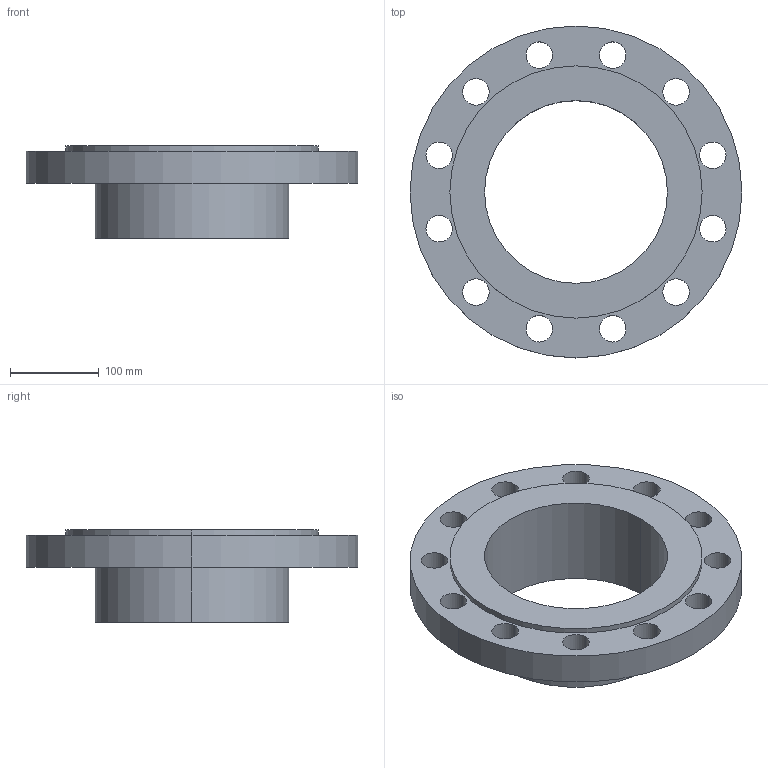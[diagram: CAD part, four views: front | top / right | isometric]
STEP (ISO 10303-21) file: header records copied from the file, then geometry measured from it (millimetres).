
FILE_DESCRIPTION (( 'STEP AP214' ), '1' );
FILE_NAME ('PN40 DN200 Type 02 in 33 - (Type A Face).STEP', '2019-01-05T02:26:45', ( '' ), ( '' ), 'SwSTEP 2.0', 'SolidWorks 2019', '' );
FILE_SCHEMA (( 'AUTOMOTIVE_DESIGN' ));
Length unit declared in the file: millimetre
Products named in the file (1): PN40 DN200 Type 02 in 33 - (Type A Face)
Bounding box: 375 x 375 x 104.3 mm (x, y, z)
Volume: 2829844.1 mm3; surface area: 428929.6 mm2
Topology: 2 solids, 2 shells, 43 faces, 110 edges, 72 vertices
Faces by surface type: cylinder 34, plane 5, cone 4
Entity records: 1443 total; most frequent: DIRECTION 270, CARTESIAN_POINT 226, ORIENTED_EDGE 220, AXIS2_PLACEMENT_3D 116, EDGE_CURVE 110, CIRCLE 72, EDGE_LOOP 72, VERTEX_POINT 72
